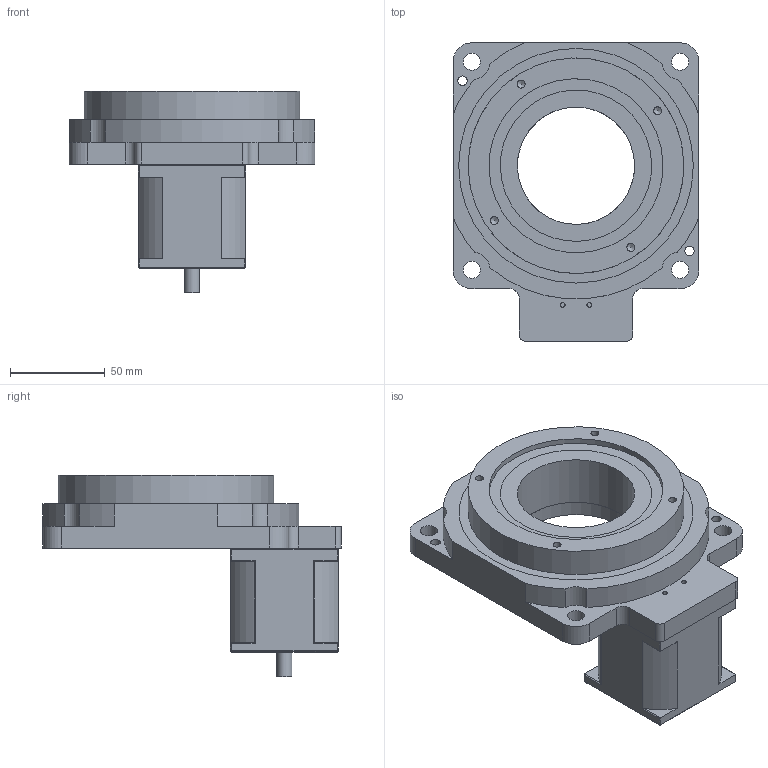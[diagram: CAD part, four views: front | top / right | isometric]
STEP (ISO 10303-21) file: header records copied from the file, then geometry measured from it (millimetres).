
FILE_DESCRIPTION (( 'STEP AP203' ), '1' );
FILE_NAME ('HR130.STEP', '2015-01-05T01:43:15', ( 'wang' ), ( '' ), 'SwSTEP 2.0', 'SolidWorks 2013', '' );
FILE_SCHEMA (( 'CONFIG_CONTROL_DESIGN' ));
Length unit declared in the file: millimetre
Products named in the file (5): Part2; MOTOR; 交叉滾子軸承; HR130; HR13001
Assembly tree (4 placements, depth 2):
  HR130
    HR13001
    交叉滾子軸承
    Part2
    MOTOR
Bounding box: 130 x 157.7 x 106.5 mm (x, y, z)
Volume: 528387.4 mm3; surface area: 113813.5 mm2
Topology: 4 solids, 4 shells, 146 faces, 347 edges, 224 vertices
Faces by surface type: cylinder 82, plane 56, cone 8
Full cylindrical faces by diameter (mm): 2.5 x2, 3.3 x4, 4.2 x4, 5 x6, 8 x1, 9 x5, 38.1 x1, 62 x2, 80 x2, 92 x1, 97 x1, 110 x1, 114 x2, 122.5 x1, 124 x2
Entity records: 4503 total; most frequent: CARTESIAN_POINT 811, DIRECTION 678, ORIENTED_EDGE 586, EDGE_CURVE 293, AXIS2_PLACEMENT_3D 272, EDGE_LOOP 224, VERTEX_POINT 213, FACE_OUTER_BOUND 181
